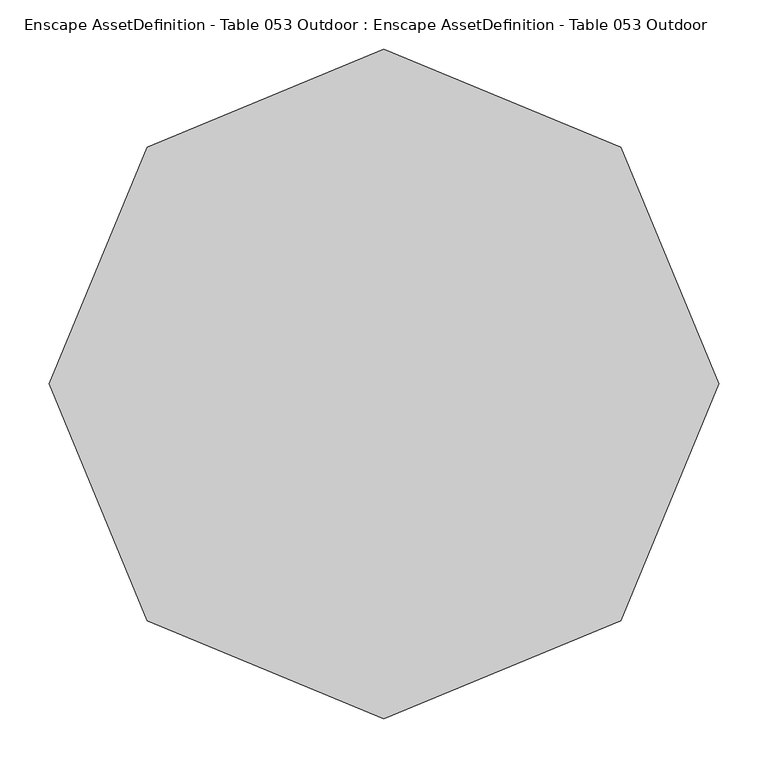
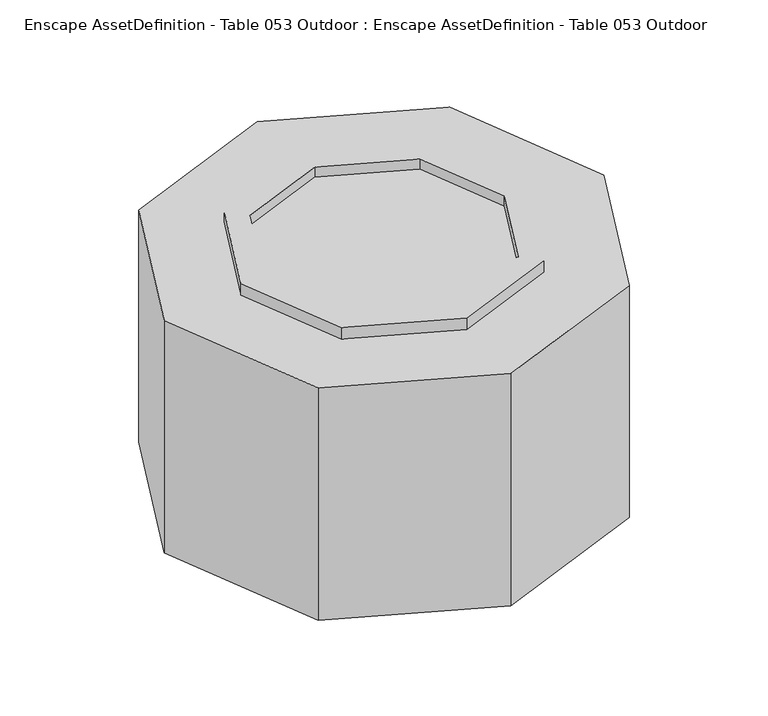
"""IFC4 building model written with IfcOpenShell, lengths in millimetres: geographic element geometry, Enscape AssetDefinition - Table 053 Outdoor : Enscape AssetDefinition - Table 053 Outdoor."""

import ifcopenshell
import ifcopenshell.guid

model = None  # the IFC model being written
_history = None  # IfcOwnerHistory: only IFC2X3 demands one
_inside = {}  # id of a spatial element -> (the spatial element, [elements in it])
_under = {}  # id of a project, library or spatial element -> (it, [spatial elements below it])
_declared = {}  # id of a project -> (the project, [libraries it declares])
_typed = {}  # id of a type object -> (the type object, [elements of that type])
_made_of = {}  # id of a material, layer set ... -> (it, [elements and type objects made of it])


def new_model(schema):
    """Start an empty IFC model of exactly this schema.

    Asked for "IFC4X3", IfcOpenShell would pick the latest addendum, in which some entities
    have other attributes; the version numbers below select the first issue.
    IFC2X3 requires an IfcOwnerHistory on every rooted entity: one is made here for all.
    """
    global model, _history
    if schema == "IFC4X3":
        model = ifcopenshell.file(schema_version=(4, 3, 0, 0))
    else:
        model = ifcopenshell.file(schema=schema)
    _inside.clear()
    _under.clear()
    _declared.clear()
    _typed.clear()
    _made_of.clear()
    _history = None
    if model.schema == "IFC2X3":
        org = make("IfcOrganization", Name="unknown")
        user = make(
            "IfcPersonAndOrganization",
            ThePerson=make("IfcPerson", FamilyName="unknown"),
            TheOrganization=org,
        )
        app = make(
            "IfcApplication",
            ApplicationDeveloper=org,
            Version="unknown",
            ApplicationFullName="unknown",
            ApplicationIdentifier="unknown",
        )
        _history = make(
            "IfcOwnerHistory",
            OwningUser=user,
            OwningApplication=app,
            ChangeAction="ADDED",
            CreationDate=0,
        )
    return model


def make(cls, **values):
    """One entity of the class cls with the attributes given. An attribute that is None is left unset."""
    return model.create_entity(
        cls, **{name: value for name, value in values.items() if value is not None}
    )


def rooted(cls, **values):
    """An entity with a GlobalId (a new one), such as an element, a storey or a relation."""
    return make(cls, GlobalId=ifcopenshell.guid.new(), OwnerHistory=_history, **values)


def si_unit(unit_type, name, prefix=None):
    """IfcSIUnit, for example si_unit("LENGTHUNIT", "METRE", prefix="MILLI")."""
    return make("IfcSIUnit", UnitType=unit_type, Prefix=prefix, Name=name)


def assignment(units):
    """IfcUnitAssignment: the units of a project."""
    return None if units is None else make("IfcUnitAssignment", Units=units)


def point(xyz):
    """IfcCartesianPoint."""
    return None if xyz is None else make("IfcCartesianPoint", Coordinates=xyz)


def direction(xyz):
    """IfcDirection."""
    return None if xyz is None else make("IfcDirection", DirectionRatios=xyz)


def frame(location, z_axis=None, x_axis=None):
    """IfcAxis2Placement3D, a coordinate frame: its origin and axes. An axis left out is left unset."""
    return make(
        "IfcAxis2Placement3D",
        Location=point(location),
        Axis=direction(z_axis),
        RefDirection=direction(x_axis),
    )


def origin():
    """The frame at (0, 0, 0) with its axes left unset."""
    return frame((0.0, 0.0, 0.0))


def place(relative_to, where):
    """IfcLocalPlacement: puts the frame where relative to a parent placement (None: the world)."""
    return make(
        "IfcLocalPlacement", PlacementRelTo=relative_to, RelativePlacement=where
    )


def context(
    kind, dimensions, precision=None, world=None, true_north=None, identifier=None
):
    """IfcGeometricRepresentationContext, for example the 3D "Model" context."""
    return make(
        "IfcGeometricRepresentationContext",
        ContextIdentifier=identifier,
        ContextType=kind,
        CoordinateSpaceDimension=dimensions,
        Precision=precision,
        WorldCoordinateSystem=world,
        TrueNorth=true_north,
    )


def project(units=None, contexts=None):
    """IfcProject with its units and contexts."""
    return rooted(
        "IfcProject",
        Name="project",
        RepresentationContexts=contexts,
        UnitsInContext=assignment(units),
    )


def spatial(cls, under=None, at=None, **own):
    """A site, building, storey or space (cls), placed at a placement, below another one or the project."""
    s = rooted(cls, ObjectPlacement=at, **own)
    if under is not None:
        _under.setdefault(under.id(), (under, []))[1].append(s)
    return s


def point_list(points):
    """IfcCartesianPointList2D or 3D."""
    cls = (
        "IfcCartesianPointList2D" if len(points[0]) == 2 else "IfcCartesianPointList3D"
    )
    return make(cls, CoordList=points)


def triangles(points, corners, closed=None, point_numbers=None):
    """IfcTriangulatedFaceSet: each triangle names its three corners, points numbered from 1."""
    return make(
        "IfcTriangulatedFaceSet",
        Coordinates=point_list(points),
        Closed=closed,
        CoordIndex=corners,
        PnIndex=point_numbers,
    )


def shape(context_of_items, identifier, shape_type, items):
    """IfcShapeRepresentation: the items that make up one representation, for example the "Body"."""
    return make(
        "IfcShapeRepresentation",
        ContextOfItems=context_of_items,
        RepresentationIdentifier=identifier,
        RepresentationType=shape_type,
        Items=items,
    )


def source(mapping_origin, context_of_items, identifier, shape_type, items):
    """IfcRepresentationMap: a shape defined once, which mapped items show again and again."""
    return make(
        "IfcRepresentationMap",
        MappingOrigin=mapping_origin,
        MappedRepresentation=shape(context_of_items, identifier, shape_type, items),
    )


def transform(
    local_origin,
    x_axis=None,
    y_axis=None,
    z_axis=None,
    scale=None,
    scale2=None,
    scale3=None,
    uniform=True,
):
    """IfcCartesianTransformationOperator3D, or its non-uniform kind. x_axis, y_axis, z_axis: its Axis1, 2, 3."""
    if uniform:
        return make(
            "IfcCartesianTransformationOperator3D",
            Axis1=direction(x_axis),
            Axis2=direction(y_axis),
            LocalOrigin=point(local_origin),
            Scale=scale,
            Axis3=direction(z_axis),
        )
    return make(
        "IfcCartesianTransformationOperator3DnonUniform",
        Axis1=direction(x_axis),
        Axis2=direction(y_axis),
        LocalOrigin=point(local_origin),
        Scale=scale,
        Axis3=direction(z_axis),
        Scale2=scale2,
        Scale3=scale3,
    )


def mapped(mapping_source, mapping_target):
    """IfcMappedItem: shows the shape of a source again, moved by a transform."""
    return make(
        "IfcMappedItem", MappingSource=mapping_source, MappingTarget=mapping_target
    )


def made_of(thing, what):
    """Note that an element or type object is made of a material, layer set ...; save() writes the relation."""
    if what is not None:
        _made_of.setdefault(what.id(), (what, []))[1].append(thing)
    return thing


def element(
    cls,
    number,
    at=None,
    inside=None,
    cuts=None,
    type_object=None,
    material=None,
    context=None,
    identifier="Body",
    shape_type=None,
    held_by="IfcProductDefinitionShape",
    body=None,
    shapes=None,
    **own,
):
    """One element of the class cls, such as IfcWall. Its Tag is "e" and its number.

    at: its placement. inside: the storey or other place that contains it. cuts: it is an
    opening in that element (IfcRelVoidsElement). A single representation is given by context,
    identifier, shape_type and body (its items); several are given by shapes. held_by: the class
    of the entity that holds the representations. save() writes the other relations.
    """
    e = rooted(cls, Tag="e%d" % number, ObjectPlacement=at, **own)
    if body is not None:
        shapes = [shape(context, identifier, shape_type, body)]
    if shapes is not None:
        e.Representation = make(held_by, Representations=shapes)
    if inside is not None:
        _inside.setdefault(inside.id(), (inside, []))[1].append(e)
    if cuts is not None:
        rooted(
            "IfcRelVoidsElement", RelatingBuildingElement=cuts, RelatedOpeningElement=e
        )
    if type_object is not None:
        _typed.setdefault(type_object.id(), (type_object, []))[1].append(e)
    return made_of(e, material)


def aggregate(whole, parts):
    """IfcRelAggregates: a whole, such as a stair, and the parts it consists of."""
    return rooted("IfcRelAggregates", RelatingObject=whole, RelatedObjects=parts)


def save(model, path):
    """Write the relations noted so far, then the file.

    IfcRelAggregates (storeys below a building ...), IfcRelContainedInSpatialStructure (elements
    in a storey), IfcRelDefinesByType, IfcRelAssociatesMaterial and IfcRelDeclares: one each for
    every whole, place, type object, material and project.
    """
    for whole, parts in _under.values():
        aggregate(whole, parts)
    for where, things in _inside.values():
        rooted(
            "IfcRelContainedInSpatialStructure",
            RelatedElements=things,
            RelatingStructure=where,
        )
    for kind, things in _typed.values():
        rooted("IfcRelDefinesByType", RelatedObjects=things, RelatingType=kind)
    for what, things in _made_of.values():
        rooted("IfcRelAssociatesMaterial", RelatedObjects=things, RelatingMaterial=what)
    for by, libraries in _declared.values():
        rooted("IfcRelDeclares", RelatingContext=by, RelatedDefinitions=libraries)
    model.write(path)


def enscape_assetdefinition_table_053_outdoor_enscape_c4f458b2(model_context):
    return source(origin(), model_context, "Body", "Tessellation", [
        triangles([(341.4305039, 4e-07, 381.459129), (341.4305039, 0.0, 0.0), (241.4278326, 241.4278326, 0.0), (222.267356, 2.3e-06, 381.459129), (241.4278144, -241.4278689, 0.0), (4.1e-06, -341.4305039, 0.0), (4.1e-06, -341.4305039, 381.459129), (241.4278144, -241.4278689, 381.459129), (157.1667512, 157.1667512, 400.7087534), (157.166733, -157.1667875, 381.459129), (4.1e-06, -222.267356, 381.459129), (5e-07, -6.8e-06, 0.0), (-241.4278144, -241.4278689, 0.0), (-341.4305039, -2.98e-05, 0.0), (-241.4278144, -241.4278689, 381.459129), (-157.166733, -157.1667875, 381.459129), (4.1e-06, -222.267356, 400.7087534), (-157.166733, -157.1667875, 400.7087534), (-341.4305039, -2.95e-05, 381.459129), (-241.4278326, 241.4278326, 0.0), (-1.49e-05, 341.4305039, 0.0), (-222.267356, -2.18e-05, 381.459129), (-157.1667512, 157.1667512, 381.459129), (-241.4278326, 241.4278326, 381.459129), (-1.49e-05, 341.4305039, 381.459129), (-222.267356, -2.18e-05, 400.7087534), (241.4278326, 241.4278326, 381.459129), (-9.2e-06, 222.267356, 381.459129), (-157.1667512, 157.1667512, 400.7087534), (-131.9764737, 131.9764737, 400.7087534), (-186.6429135, -1.88e-05, 400.7087534), (-9.2e-06, 222.267356, 400.7087534), (-186.6429135, -1.88e-05, 384.0193288), (-131.9764737, 131.9764737, 384.0193288), (-131.9764556, -131.976501, 400.7087534), (-131.9764556, -131.976501, 384.0193288), (131.9764556, -131.976501, 384.0193288), (4.3e-06, -186.6429135, 400.7087534), (4.3e-06, -186.6429135, 384.0193288), (157.166733, -157.1667875, 400.7087534), (131.9764556, -131.976501, 400.7087534), (186.6429135, 4.4e-06, 384.0193288), (222.267356, 2.3e-06, 400.7087534), (131.9764737, 131.9764737, 400.7087534), (186.6429135, 4.4e-06, 400.7087534), (131.9764737, 131.9764737, 384.0193288), (-8.9e-06, 186.6429135, 400.7087534), (-8.9e-06, 186.6429135, 384.0193288), (-2e-06, -6.8e-06, 384.0192924), (157.1667512, 157.1667512, 381.459129)], [[50, 32, 9], [9, 32, 47], [48, 34, 49], [47, 34, 48], [44, 47, 48], [43, 9, 44], [9, 47, 44], [46, 48, 49], [44, 48, 46], [45, 44, 46], [40, 43, 45], [43, 44, 45], [42, 46, 49], [45, 46, 42], [41, 45, 42], [17, 40, 41], [40, 45, 41], [37, 42, 49], [41, 42, 37], [39, 37, 49], [38, 41, 37], [38, 37, 39], [17, 41, 38], [18, 17, 38], [35, 38, 39], [18, 38, 35], [36, 39, 49], [35, 39, 36], [33, 36, 49], [34, 33, 49], [47, 30, 34], [30, 33, 34], [32, 30, 47], [31, 35, 36], [30, 31, 33], [31, 36, 33], [26, 18, 35], [26, 35, 31], [29, 26, 31], [32, 29, 30], [29, 31, 30], [50, 28, 32], [28, 29, 32], [27, 28, 50], [27, 25, 28], [3, 25, 27], [28, 23, 29], [23, 26, 29], [25, 23, 28], [23, 22, 26], [22, 18, 26], [25, 24, 23], [24, 22, 23], [3, 21, 25], [21, 24, 25], [21, 3, 12], [21, 20, 24], [20, 21, 12], [14, 20, 12], [24, 19, 22], [20, 14, 19], [20, 19, 24], [22, 16, 18], [16, 17, 18], [19, 16, 22], [16, 11, 17], [11, 40, 17], [19, 15, 16], [15, 11, 16], [14, 15, 19], [14, 13, 15], [13, 14, 12], [6, 13, 12], [15, 7, 11], [13, 6, 7], [13, 7, 15], [11, 10, 40], [10, 43, 40], [7, 10, 11], [10, 4, 43], [4, 50, 9], [4, 9, 43], [7, 8, 10], [8, 4, 10], [6, 8, 7], [6, 5, 8], [5, 6, 12], [8, 1, 4], [1, 27, 50], [1, 50, 4], [5, 1, 8], [5, 2, 1], [2, 3, 27], [2, 5, 12], [3, 2, 12], [2, 27, 1]]),
    ])


if __name__ == "__main__":
    model = new_model("IFC4")
    model_context = context("Model", 3, world=origin())
    ifc_project = project(units=[si_unit("LENGTHUNIT", "METRE", prefix="MILLI")], contexts=[model_context])
    site = spatial("IfcSite", under=ifc_project)
    building = spatial("IfcBuilding", under=site)
    placement = place(None, origin())
    enscape_assetdefinition_table_053_outdoor_enscape_shape = enscape_assetdefinition_table_053_outdoor_enscape_c4f458b2(model_context)
    element("IfcGeographicElement", 1, ObjectType="Enscape AssetDefinition - Table 053 Outdoor : Enscape AssetDefinition - Table 053 Outdoor", at=placement, inside=building, context=model_context, shape_type="MappedRepresentation", body=[
        mapped(enscape_assetdefinition_table_053_outdoor_enscape_shape, transform((0.0, 0.0, 0.0), x_axis=(1.0, 0.0, 0.0), y_axis=(0.0, 1.0, 0.0), z_axis=(0.0, 0.0, 1.0))),
    ])
    save(model, "model.ifc")
